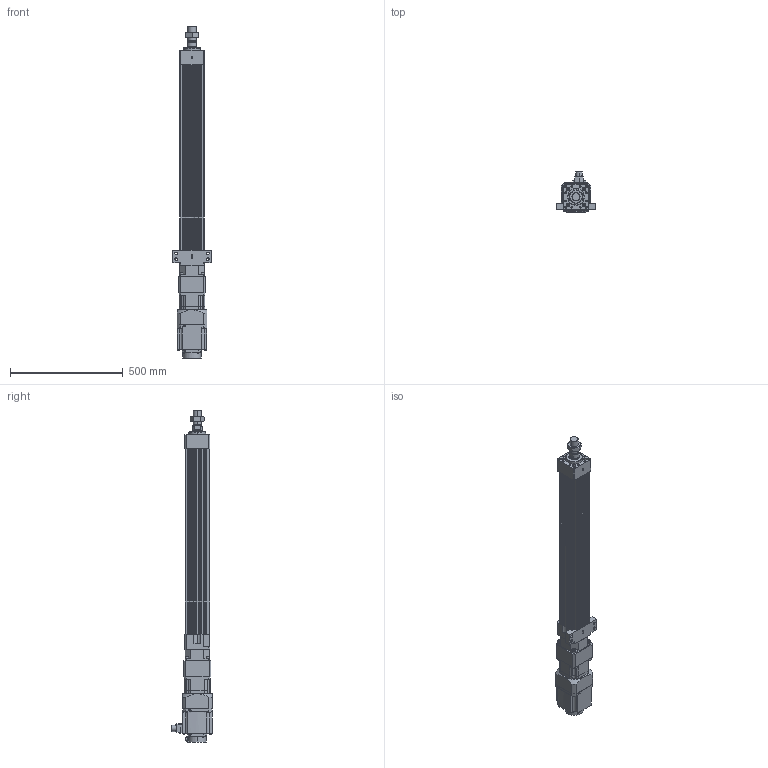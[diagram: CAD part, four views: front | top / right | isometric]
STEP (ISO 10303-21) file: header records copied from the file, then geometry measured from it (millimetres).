
FILE_DESCRIPTION (( 'STEP AP203' ), '1' );
FILE_NAME ('HES110NS(HS)-S650-W015G00-M-FFC.STEP', '2023-01-28T05:43:56', ( 'tms' ), ( '' ), 'SwSTEP 2.0', 'SolidWorks 2013', '' );
FILE_SCHEMA (( 'CONFIG_CONTROL_DESIGN' ));
Length unit declared in the file: millimetre
Products named in the file (8): HES110 ROD M ST650; M36X1.5P; HES110-S650-G120-FFC; AB115-003[HG-SR152]; HG-SR152; HES110NS(HS)-S650-W015G00-M-FFC; P0401400706; AB1151
Assembly tree (7 placements, depth 3):
  HES110NS(HS)-S650-W015G00-M-FFC
    HES110-S650-G120-FFC
    HES110 ROD M ST650
    M36X1.5P
    AB115-003[HG-SR152]
      AB1151
      P0401400706
    HG-SR152
Bounding box: 170 x 177.49 x 1471.5 mm (x, y, z)
Volume: 9400746.4 mm3; surface area: 1346915.1 mm2
Topology: 4 solids, 15 shells, 1222 faces, 3083 edges, 1988 vertices
Faces by surface type: plane 557, cylinder 549, cone 104, bspline 8, torus 4
Entity records: 38313 total; most frequent: CARTESIAN_POINT 7246, DIRECTION 6648, ORIENTED_EDGE 6070, EDGE_CURVE 3045, AXIS2_PLACEMENT_3D 2450, VERTEX_POINT 1988, LINE 1748, VECTOR 1748
